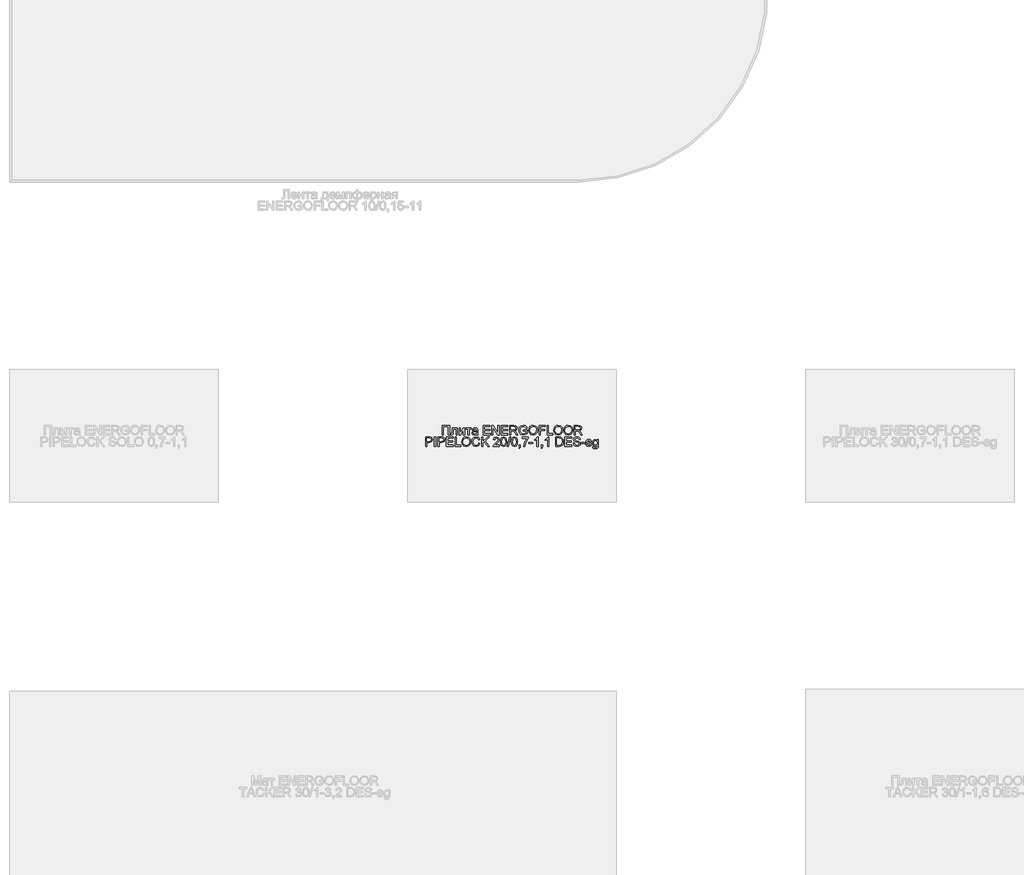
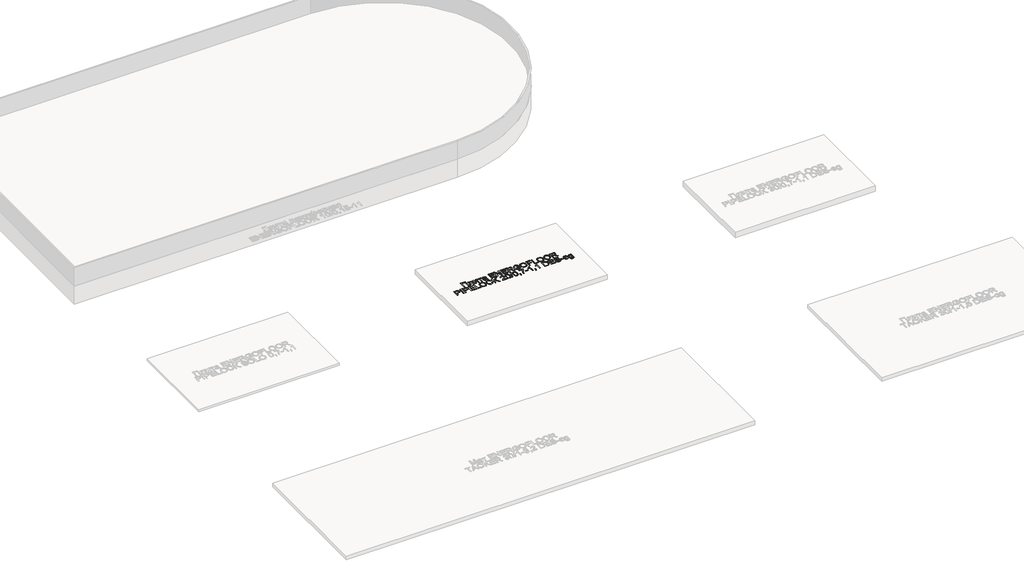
# One storey, part 5 of 7: 1 proxy.
"""IFC4 building model written with IfcOpenShell, lengths in millimetres."""

from ifc_helpers import new_model, si_unit, origin, origin_with_axes, place, context, project, spatial, polyline, outline, extrude, element, save

model = new_model("IFC4")

# Units and contexts
model_context = context("Model", 3, world=origin())
ifc_project = project(units=[si_unit("LENGTHUNIT", "METRE", prefix="MILLI")], contexts=[model_context])

# Site, building, storey
site = spatial("IfcSite", under=ifc_project)
building = spatial("IfcBuilding", under=site)
storey = spatial("IfcBuildingStorey", under=building, Name="Уровень 1", Elevation=0.0)

# Proxy
placement = place(None, origin())
element("IfcBuildingElementProxy", 1, Name="Текст модели ROLS ISOMARKET", ObjectType="Текст модели ROLS ISOMARKET", at=placement, inside=storey, context=model_context, shape_type="SweptSolid", body=[
    extrude(outline(polyline([(-14833.1193871, 11506.776011), (-14794.6578487, 11506.776011), (-14794.6578487, 11457.5452418), (-14800.8116948, 11457.5452418), (-14800.8116948, 11500.6221648), (-14826.965541, 11500.6221648), (-14826.965541, 11457.5452418), (-14833.1193871, 11457.5452418), (-14833.1193871, 11506.776011)])), origin_with_axes(), (0.0, 0.0, 1.0), 2.0),
    extrude(outline(polyline([(-14781.5809256, 11493.6990879), (-14753.8886179, 11493.6990879), (-14753.8886179, 11457.5812994), (-14760.0424641, 11457.5812994), (-14760.0424641, 11487.5452418), (-14775.4270794, 11487.5452418), (-14775.4270794, 11470.2976456), (-14775.8417429, 11462.3409148), (-14778.1193871, 11458.9815398), (-14783.5040025, 11457.5452418), (-14788.5040025, 11457.8577418), (-14788.5040025, 11463.6990879), (-14785.7515987, 11463.6990879), (-14782.9691468, 11464.0776937), (-14781.8573679, 11465.2796168), (-14781.5809256, 11470.6462033), (-14781.5809256, 11493.6990879)])), origin_with_axes(), (0.0, 0.0, 1.0), 2.0),
    extrude(outline(polyline([(-14744.6578487, 11493.6990879), (-14738.5040025, 11493.6990879), (-14738.5040025, 11466.1269725), (-14723.3838102, 11493.6990879), (-14715.4270794, 11493.6990879), (-14715.4270794, 11457.5452418), (-14721.5809256, 11457.5452418), (-14721.5809256, 11484.9490879), (-14736.6049641, 11457.5452418), (-14744.6578487, 11457.5452418), (-14744.6578487, 11493.6990879)])), origin_with_axes(), (0.0, 0.0, 1.0), 2.0),
    extrude(outline(polyline([(-14709.2732333, 11493.6990879), (-14680.0424641, 11493.6990879), (-14680.0424641, 11487.5452418), (-14691.5809256, 11487.5452418), (-14691.5809256, 11457.5452418), (-14697.7347718, 11457.5452418), (-14697.7347718, 11487.5452418), (-14709.2732333, 11487.5452418), (-14709.2732333, 11493.6990879)])), origin_with_axes(), (0.0, 0.0, 1.0), 2.0),
    extrude(outline(polyline([(-14651.5809256, 11462.1606264), (-14657.5484737, 11457.9899533), (-14664.1410218, 11456.776011), (-14673.0773198, 11459.6966841), (-14676.1963102, 11467.1606264), (-14675.0184256, 11472.0284148), (-14671.9234737, 11475.5620687), (-14667.6145794, 11477.5812994), (-14662.2900602, 11478.5067802), (-14651.6169833, 11480.6221648), (-14653.2756371, 11486.5356264), (-14660.0785218, 11488.3144725), (-14666.3044833, 11487.1305783), (-14669.2732333, 11482.9298571), (-14675.4270794, 11483.6990879), (-14672.7648198, 11489.7087033), (-14667.4042429, 11493.2303379), (-14659.2852525, 11494.4683187), (-14651.8273198, 11493.3745687), (-14647.6145794, 11490.6281744), (-14645.7275602, 11486.4514918), (-14645.4270794, 11481.0668764), (-14645.4270794, 11473.4106264), (-14645.1145794, 11462.7195206), (-14643.8886179, 11457.5452418), (-14650.0424641, 11457.5452418), (-14651.5809256, 11462.1606264)]), holes=[polyline([(-14651.5809256, 11474.4683187), (-14661.5088102, 11472.5812994), (-14666.8032814, 11471.5837033), (-14669.2011179, 11469.9611071), (-14670.0424641, 11467.5933187), (-14668.2095314, 11464.2639918), (-14662.8309256, 11462.9298571), (-14656.6049641, 11464.4022129), (-14652.590541, 11467.9659148), (-14651.6169833, 11472.7255302), (-14651.5809256, 11474.4683187)])]), origin_with_axes(), (0.0, 0.0, 1.0), 2.0),
    extrude(outline(polyline([(-14616.965541, 11457.5452418), (-14616.965541, 11506.776011), (-14581.5809256, 11506.776011), (-14581.5809256, 11500.6221648), (-14610.8116948, 11500.6221648), (-14610.8116948, 11486.0067802), (-14583.1193871, 11486.0067802), (-14583.1193871, 11479.8529341), (-14610.8116948, 11479.8529341), (-14610.8116948, 11463.6990879), (-14580.8116948, 11463.6990879), (-14580.8116948, 11457.5452418), (-14616.965541, 11457.5452418)])), origin_with_axes(), (0.0, 0.0, 1.0), 2.0),
    extrude(outline(polyline([(-14571.5809256, 11457.5452418), (-14571.5809256, 11506.776011), (-14564.9943871, 11506.776011), (-14539.2732333, 11467.7736071), (-14539.2732333, 11506.776011), (-14533.1193871, 11506.776011), (-14533.1193871, 11457.5452418), (-14539.7059256, 11457.5452418), (-14565.4270794, 11496.5596648), (-14565.4270794, 11457.5452418), (-14571.5809256, 11457.5452418)])), origin_with_axes(), (0.0, 0.0, 1.0), 2.0),
    extrude(outline(polyline([(-14522.3501564, 11457.5452418), (-14522.3501564, 11506.776011), (-14486.965541, 11506.776011), (-14486.965541, 11500.6221648), (-14516.1963102, 11500.6221648), (-14516.1963102, 11486.0067802), (-14488.5040025, 11486.0067802), (-14488.5040025, 11479.8529341), (-14516.1963102, 11479.8529341), (-14516.1963102, 11463.6990879), (-14486.1963102, 11463.6990879), (-14486.1963102, 11457.5452418), (-14522.3501564, 11457.5452418)])), origin_with_axes(), (0.0, 0.0, 1.0), 2.0),
    extrude(outline(polyline([(-14476.965541, 11457.5452418), (-14476.965541, 11506.776011), (-14455.7515987, 11506.776011), (-14445.9018391, 11505.447886), (-14440.5172237, 11500.7483668), (-14438.5040025, 11493.3024533), (-14441.8393391, 11484.432261), (-14452.1458294, 11479.8529341), (-14448.6482333, 11477.2207225), (-14443.6602525, 11470.8865879), (-14435.4511179, 11457.5452418), (-14442.6025602, 11457.5452418), (-14449.0088102, 11467.7495687), (-14453.6362141, 11474.5043764), (-14456.887416, 11477.6954821), (-14459.8140987, 11478.8673571), (-14463.3838102, 11479.0837033), (-14470.8116948, 11479.0837033), (-14470.8116948, 11457.5452418), (-14476.965541, 11457.5452418)]), holes=[polyline([(-14470.8116948, 11485.2375494), (-14457.0376564, 11485.2375494), (-14450.012416, 11486.1089437), (-14446.0220314, 11488.8974052), (-14444.6578487, 11493.0740879), (-14447.2600121, 11498.494761), (-14455.4871756, 11500.6221648), (-14470.8116948, 11500.6221648), (-14470.8116948, 11485.2375494)])]), origin_with_axes(), (0.0, 0.0, 1.0), 2.0),
    extrude(outline(polyline([(-14404.6578487, 11476.776011), (-14404.6578487, 11482.9298571), (-14384.6578487, 11482.9298571), (-14384.6578487, 11464.5284148), (-14394.5316468, 11458.7231264), (-14404.9703487, 11456.776011), (-14418.1133775, 11459.8709629), (-14427.0316468, 11468.8312994), (-14430.0424641, 11481.9202418), (-14427.043666, 11495.3036552), (-14418.4198679, 11504.5284148), (-14405.4631371, 11507.5452418), (-14395.8357333, 11505.7964437), (-14389.0869352, 11500.9286552), (-14385.3669833, 11492.7856264), (-14391.0400602, 11491.1870687), (-14393.8465506, 11496.8781744), (-14398.6422237, 11500.1594244), (-14405.559291, 11501.3913956), (-14413.4378968, 11500.0632706), (-14418.7984737, 11496.5776937), (-14421.965541, 11491.8361071), (-14423.8886179, 11482.1726456), (-14421.574916, 11471.4454821), (-14414.8441468, 11465.0272129), (-14405.4631371, 11462.9298571), (-14397.043666, 11464.510386), (-14390.8116948, 11467.8817802), (-14390.8116948, 11476.776011), (-14404.6578487, 11476.776011)])), origin_with_axes(), (0.0, 0.0, 1.0), 2.0),
    extrude(outline(polyline([(-14376.965541, 11481.5115879), (-14375.324916, 11492.3980062), (-14370.403041, 11500.6341841), (-14362.8880169, 11505.8174773), (-14353.4679448, 11507.5452418), (-14341.2203487, 11504.3000494), (-14332.903041, 11495.2495687), (-14330.0424641, 11482.0764918), (-14333.0532814, 11468.7231264), (-14341.5869352, 11459.8048571), (-14353.5040025, 11456.776011), (-14365.8838102, 11460.1233668), (-14374.153041, 11469.2579821), (-14376.965541, 11481.5115879)]), holes=[polyline([(-14370.8116948, 11481.4514918), (-14365.8898198, 11467.8817802), (-14353.5400602, 11462.9298571), (-14341.0821275, 11467.9298571), (-14336.1963102, 11482.1245687), (-14338.2876564, 11492.2808187), (-14344.3994352, 11499.0055783), (-14353.4318871, 11501.3913956), (-14365.6794833, 11496.7940398), (-14369.5286419, 11490.6597249), (-14370.8116948, 11481.4514918)])]), origin_with_axes(), (0.0, 0.0, 1.0), 2.0),
    extrude(outline(polyline([(-14321.5809256, 11457.5452418), (-14321.5809256, 11506.776011), (-14288.5040025, 11506.776011), (-14288.5040025, 11500.6221648), (-14315.4270794, 11500.6221648), (-14315.4270794, 11486.0067802), (-14292.3501564, 11486.0067802), (-14292.3501564, 11479.8529341), (-14315.4270794, 11479.8529341), (-14315.4270794, 11457.5452418), (-14321.5809256, 11457.5452418)])), origin_with_axes(), (0.0, 0.0, 1.0), 2.0),
    extrude(outline(polyline([(-14280.0424641, 11457.5452418), (-14280.0424641, 11506.776011), (-14273.8886179, 11506.776011), (-14273.8886179, 11463.6990879), (-14249.2732333, 11463.6990879), (-14249.2732333, 11457.5452418), (-14280.0424641, 11457.5452418)])), origin_with_axes(), (0.0, 0.0, 1.0), 2.0),
    extrude(outline(polyline([(-14244.6578487, 11481.5115879), (-14243.0172237, 11492.3980062), (-14238.0953487, 11500.6341841), (-14230.5803246, 11505.8174773), (-14221.1602525, 11507.5452418), (-14208.9126564, 11504.3000494), (-14200.5953487, 11495.2495687), (-14197.7347718, 11482.0764918), (-14200.7455891, 11468.7231264), (-14209.2792429, 11459.8048571), (-14221.1963102, 11456.776011), (-14233.5761179, 11460.1233668), (-14241.8453487, 11469.2579821), (-14244.6578487, 11481.5115879)]), holes=[polyline([(-14238.5040025, 11481.4514918), (-14233.5821275, 11467.8817802), (-14221.2323679, 11462.9298571), (-14208.7744352, 11467.9298571), (-14203.8886179, 11482.1245687), (-14205.9799641, 11492.2808187), (-14212.0917429, 11499.0055783), (-14221.1241948, 11501.3913956), (-14233.371791, 11496.7940398), (-14237.2209496, 11490.6597249), (-14238.5040025, 11481.4514918)])]), origin_with_axes(), (0.0, 0.0, 1.0), 2.0),
    extrude(outline(polyline([(-14191.5809256, 11481.5115879), (-14189.9403006, 11492.3980062), (-14185.0184256, 11500.6341841), (-14177.5034016, 11505.8174773), (-14168.0833294, 11507.5452418), (-14155.8357333, 11504.3000494), (-14147.5184256, 11495.2495687), (-14144.6578487, 11482.0764918), (-14147.668666, 11468.7231264), (-14156.2023198, 11459.8048571), (-14168.1193871, 11456.776011), (-14180.4991948, 11460.1233668), (-14188.7684256, 11469.2579821), (-14191.5809256, 11481.5115879)]), holes=[polyline([(-14185.4270794, 11481.4514918), (-14180.5052044, 11467.8817802), (-14168.1554448, 11462.9298571), (-14155.6975121, 11467.9298571), (-14150.8116948, 11482.1245687), (-14152.903041, 11492.2808187), (-14159.0148198, 11499.0055783), (-14168.0472718, 11501.3913956), (-14180.2948679, 11496.7940398), (-14184.1440266, 11490.6597249), (-14185.4270794, 11481.4514918)])]), origin_with_axes(), (0.0, 0.0, 1.0), 2.0),
    extrude(outline(polyline([(-14136.1963102, 11457.5452418), (-14136.1963102, 11506.776011), (-14114.9823679, 11506.776011), (-14105.1326083, 11505.447886), (-14099.7479929, 11500.7483668), (-14097.7347718, 11493.3024533), (-14101.0701083, 11484.432261), (-14111.3765987, 11479.8529341), (-14107.8790025, 11477.2207225), (-14102.8910218, 11470.8865879), (-14094.6818871, 11457.5452418), (-14101.8333294, 11457.5452418), (-14108.2395794, 11467.7495687), (-14112.8669833, 11474.5043764), (-14116.1181852, 11477.6954821), (-14119.0448679, 11478.8673571), (-14122.6145794, 11479.0837033), (-14130.0424641, 11479.0837033), (-14130.0424641, 11457.5452418), (-14136.1963102, 11457.5452418)]), holes=[polyline([(-14130.0424641, 11485.2375494), (-14116.2684256, 11485.2375494), (-14109.2431852, 11486.1089437), (-14105.2528006, 11488.8974052), (-14103.8886179, 11493.0740879), (-14106.4907814, 11498.494761), (-14114.7179448, 11500.6221648), (-14130.0424641, 11500.6221648), (-14130.0424641, 11485.2375494)])]), origin_with_axes(), (0.0, 0.0, 1.0), 2.0),
    extrude(outline(polyline([(-14920.8116948, 11396.776011), (-14920.8116948, 11446.0067802), (-14902.5665025, 11446.0067802), (-14895.2107333, 11445.5380302), (-14889.231166, 11443.2363475), (-14885.3549641, 11438.4767321), (-14883.8886179, 11431.7639918), (-14887.8489544, 11421.1269725), (-14902.1458294, 11416.776011), (-14914.6578487, 11416.776011), (-14914.6578487, 11396.776011), (-14920.8116948, 11396.776011)]), holes=[polyline([(-14914.6578487, 11422.9298571), (-14901.7852525, 11422.9298571), (-14892.7227525, 11425.1894725), (-14890.0424641, 11431.5476456), (-14891.6229929, 11436.6437994), (-14895.7756371, 11439.432261), (-14901.9294833, 11439.8529341), (-14914.6578487, 11439.8529341), (-14914.6578487, 11422.9298571)])]), origin_with_axes(), (0.0, 0.0, 1.0), 2.0),
    extrude(outline(polyline([(-14874.6578487, 11396.776011), (-14874.6578487, 11446.0067802), (-14868.5040025, 11446.0067802), (-14868.5040025, 11396.776011), (-14874.6578487, 11396.776011)])), origin_with_axes(), (0.0, 0.0, 1.0), 2.0),
    extrude(outline(polyline([(-14856.1963102, 11396.776011), (-14856.1963102, 11446.0067802), (-14837.9511179, 11446.0067802), (-14830.5953487, 11445.5380302), (-14824.6157814, 11443.2363475), (-14820.7395794, 11438.4767321), (-14819.2732333, 11431.7639918), (-14823.2335698, 11421.1269725), (-14837.5304448, 11416.776011), (-14850.0424641, 11416.776011), (-14850.0424641, 11396.776011), (-14856.1963102, 11396.776011)]), holes=[polyline([(-14850.0424641, 11422.9298571), (-14837.1698679, 11422.9298571), (-14828.1073679, 11425.1894725), (-14825.4270794, 11431.5476456), (-14827.0076083, 11436.6437994), (-14831.1602525, 11439.432261), (-14837.3140987, 11439.8529341), (-14850.0424641, 11439.8529341), (-14850.0424641, 11422.9298571)])]), origin_with_axes(), (0.0, 0.0, 1.0), 2.0),
    extrude(outline(polyline([(-14810.8116948, 11396.776011), (-14810.8116948, 11446.0067802), (-14775.4270794, 11446.0067802), (-14775.4270794, 11439.8529341), (-14804.6578487, 11439.8529341), (-14804.6578487, 11425.2375494), (-14776.965541, 11425.2375494), (-14776.965541, 11419.0837033), (-14804.6578487, 11419.0837033), (-14804.6578487, 11402.9298571), (-14774.6578487, 11402.9298571), (-14774.6578487, 11396.776011), (-14810.8116948, 11396.776011)])), origin_with_axes(), (0.0, 0.0, 1.0), 2.0),
    extrude(outline(polyline([(-14765.4270794, 11396.776011), (-14765.4270794, 11446.0067802), (-14759.2732333, 11446.0067802), (-14759.2732333, 11402.9298571), (-14734.6578487, 11402.9298571), (-14734.6578487, 11396.776011), (-14765.4270794, 11396.776011)])), origin_with_axes(), (0.0, 0.0, 1.0), 2.0),
    extrude(outline(polyline([(-14730.0424641, 11420.7423571), (-14728.4018391, 11431.6287754), (-14723.4799641, 11439.8649533), (-14715.96494, 11445.0482466), (-14706.5448679, 11446.776011), (-14694.2972718, 11443.5308187), (-14685.9799641, 11434.4803379), (-14683.1193871, 11421.307261), (-14686.1302044, 11407.9538956), (-14694.6638583, 11399.0356264), (-14706.5809256, 11396.0067802), (-14718.9607333, 11399.354136), (-14727.2299641, 11408.4887514), (-14730.0424641, 11420.7423571)]), holes=[polyline([(-14723.8886179, 11420.682261), (-14718.9667429, 11407.1125494), (-14706.6169833, 11402.1606264), (-14694.1590506, 11407.1606264), (-14689.2732333, 11421.3553379), (-14691.3645794, 11431.5115879), (-14697.4763583, 11438.2363475), (-14706.5088102, 11440.6221648), (-14718.7564064, 11436.0248091), (-14722.605565, 11429.8904942), (-14723.8886179, 11420.682261)])]), origin_with_axes(), (0.0, 0.0, 1.0), 2.0),
    extrude(outline(polyline([(-14640.0424641, 11414.276011), (-14633.8886179, 11412.6894725), (-14641.184291, 11400.2796168), (-14654.0689064, 11396.0067802), (-14666.8753968, 11399.2399533), (-14674.387416, 11408.6029341), (-14676.965541, 11421.7639918), (-14674.0508775, 11435.1413956), (-14665.7636179, 11443.8132706), (-14653.9366948, 11446.776011), (-14641.6109737, 11442.9418764), (-14634.6578487, 11432.1486071), (-14640.8116948, 11430.682261), (-14645.8597718, 11438.2483668), (-14654.1770794, 11440.6221648), (-14663.8044833, 11437.9899533), (-14669.2431852, 11430.9226456), (-14670.8116948, 11421.776011), (-14668.9547237, 11411.1750494), (-14663.1734737, 11404.4022129), (-14654.6818871, 11402.1606264), (-14645.2648198, 11405.213511), (-14640.0424641, 11414.276011)])), origin_with_axes(), (0.0, 0.0, 1.0), 2.0),
    extrude(outline(polyline([(-14625.4270794, 11396.776011), (-14625.4270794, 11446.0067802), (-14619.2732333, 11446.0067802), (-14619.2732333, 11421.9082225), (-14594.0328487, 11446.0067802), (-14585.4270794, 11446.0067802), (-14606.6169833, 11425.7663956), (-14584.6578487, 11396.776011), (-14592.1818871, 11396.776011), (-14610.9799641, 11421.6077418), (-14619.2732333, 11413.6990879), (-14619.2732333, 11396.776011), (-14625.4270794, 11396.776011)])), origin_with_axes(), (0.0, 0.0, 1.0), 2.0),
    extrude(outline(polyline([(-14531.5809256, 11402.9298571), (-14531.5809256, 11396.776011), (-14563.8886179, 11396.776011), (-14563.2275602, 11401.0187994), (-14559.4895794, 11407.5512514), (-14551.7852525, 11414.6846648), (-14541.1602525, 11424.9370687), (-14538.5040025, 11431.9082225), (-14541.0100121, 11437.5512514), (-14547.5544833, 11439.8529341), (-14554.3753968, 11437.6053379), (-14556.965541, 11431.3913956), (-14563.1193871, 11432.1606264), (-14558.4018391, 11442.4611071), (-14547.4222718, 11446.0067802), (-14536.4066468, 11442.0644725), (-14532.3501564, 11432.2808187), (-14533.4439064, 11426.4454821), (-14537.0797237, 11420.4118283), (-14545.8958294, 11411.9803379), (-14552.9751564, 11406.0608668), (-14555.7515987, 11402.9298571), (-14531.5809256, 11402.9298571)])), origin_with_axes(), (0.0, 0.0, 1.0), 2.0),
    extrude(outline(polyline([(-14525.4270794, 11420.994761), (-14523.6181852, 11435.1594244), (-14518.2455891, 11443.3264918), (-14509.2732333, 11446.0067802), (-14502.0857333, 11444.4202418), (-14497.121791, 11439.8469244), (-14494.2371756, 11432.5632706), (-14493.1193871, 11420.994761), (-14494.9102525, 11406.8901937), (-14500.2648198, 11398.7050975), (-14509.2732333, 11396.0067802), (-14520.5232333, 11400.6942802), (-14524.2011179, 11409.0206023), (-14525.4270794, 11420.994761)]), holes=[polyline([(-14519.2732333, 11421.0067802), (-14516.3886179, 11405.7243283), (-14509.2732333, 11402.1606264), (-14502.1578487, 11405.7363475), (-14499.2732333, 11421.0067802), (-14502.0616948, 11436.1149533), (-14509.3453487, 11439.8529341), (-14516.2924641, 11436.5596648), (-14519.2732333, 11421.0067802)])]), origin_with_axes(), (0.0, 0.0, 1.0), 2.0),
    extrude(outline(polyline([(-14490.8116948, 11396.776011), (-14476.965541, 11446.0067802), (-14471.4126564, 11446.0067802), (-14485.2588102, 11396.776011), (-14490.8116948, 11396.776011)])), origin_with_axes(), (0.0, 0.0, 1.0), 2.0),
    extrude(outline(polyline([(-14468.5040025, 11420.994761), (-14466.6951083, 11435.1594244), (-14461.3225121, 11443.3264918), (-14452.3501564, 11446.0067802), (-14445.1626564, 11444.4202418), (-14440.1987141, 11439.8469244), (-14437.3140987, 11432.5632706), (-14436.1963102, 11420.994761), (-14437.9871756, 11406.8901937), (-14443.3417429, 11398.7050975), (-14452.3501564, 11396.0067802), (-14463.6001564, 11400.6942802), (-14467.278041, 11409.0206023), (-14468.5040025, 11420.994761)]), holes=[polyline([(-14462.3501564, 11421.0067802), (-14459.465541, 11405.7243283), (-14452.3501564, 11402.1606264), (-14445.2347718, 11405.7363475), (-14442.3501564, 11421.0067802), (-14445.1386179, 11436.1149533), (-14452.4222718, 11439.8529341), (-14459.3693871, 11436.5596648), (-14462.3501564, 11421.0067802)])]), origin_with_axes(), (0.0, 0.0, 1.0), 2.0),
    extrude(outline(polyline([(-14427.7347718, 11396.776011), (-14427.7347718, 11402.9298571), (-14421.5809256, 11402.9298571), (-14421.5809256, 11396.776011), (-14422.6866948, 11390.4839437), (-14426.1963102, 11386.776011), (-14427.7347718, 11389.0837033), (-14425.4751564, 11391.7399533), (-14424.6698679, 11396.776011), (-14427.7347718, 11396.776011)])), origin_with_axes(), (0.0, 0.0, 1.0), 2.0),
    extrude(outline(polyline([(-14411.5809256, 11439.0837033), (-14411.5809256, 11445.2375494), (-14379.2732333, 11445.2375494), (-14379.2732333, 11440.2615879), (-14388.4378968, 11427.0224052), (-14395.4511179, 11410.1534148), (-14397.7347718, 11396.776011), (-14403.8886179, 11396.776011), (-14401.4427044, 11410.6582225), (-14394.7299641, 11426.3493283), (-14385.4270794, 11439.0837033), (-14411.5809256, 11439.0837033)])), origin_with_axes(), (0.0, 0.0, 1.0), 2.0),
    extrude(outline(polyline([(-14375.4270794, 11411.3913956), (-14375.4270794, 11417.5452418), (-14356.1963102, 11417.5452418), (-14356.1963102, 11411.3913956), (-14375.4270794, 11411.3913956)])), origin_with_axes(), (0.0, 0.0, 1.0), 2.0),
    extrude(outline(polyline([(-14327.7347718, 11396.776011), (-14333.8886179, 11396.776011), (-14333.8886179, 11435.1413956), (-14339.7179448, 11430.9887514), (-14346.1963102, 11427.8817802), (-14346.1963102, 11433.6990879), (-14337.1758775, 11439.4562994), (-14331.7011179, 11446.0067802), (-14327.7347718, 11446.0067802), (-14327.7347718, 11396.776011)])), origin_with_axes(), (0.0, 0.0, 1.0), 2.0),
    extrude(outline(polyline([(-14310.0424641, 11396.776011), (-14310.0424641, 11402.9298571), (-14303.8886179, 11402.9298571), (-14303.8886179, 11396.776011), (-14304.9943871, 11390.4839437), (-14308.5040025, 11386.776011), (-14310.0424641, 11389.0837033), (-14307.7828487, 11391.7399533), (-14306.9775602, 11396.776011), (-14310.0424641, 11396.776011)])), origin_with_axes(), (0.0, 0.0, 1.0), 2.0),
    extrude(outline(polyline([(-14270.8116948, 11396.776011), (-14276.965541, 11396.776011), (-14276.965541, 11435.1413956), (-14282.7948679, 11430.9887514), (-14289.2732333, 11427.8817802), (-14289.2732333, 11433.6990879), (-14280.2528006, 11439.4562994), (-14274.778041, 11446.0067802), (-14270.8116948, 11446.0067802), (-14270.8116948, 11396.776011)])), origin_with_axes(), (0.0, 0.0, 1.0), 2.0),
    extrude(outline(polyline([(-14234.6578487, 11396.776011), (-14234.6578487, 11446.0067802), (-14217.6746756, 11446.0067802), (-14208.8886179, 11445.2976456), (-14201.653041, 11441.776011), (-14195.8237141, 11433.3625494), (-14193.8886179, 11421.6558187), (-14195.1987141, 11411.7219244), (-14198.5640987, 11404.5524533), (-14203.059291, 11400.0873091), (-14208.9427044, 11397.6173571), (-14216.8573679, 11396.776011), (-14234.6578487, 11396.776011)]), holes=[polyline([(-14228.5040025, 11402.9298571), (-14217.6145794, 11402.9298571), (-14209.6939064, 11403.8192802), (-14205.1265987, 11406.3312994), (-14201.3826083, 11412.4430783), (-14200.0424641, 11421.7519725), (-14202.668666, 11433.4106264), (-14209.0568871, 11438.8673571), (-14217.7828487, 11439.8529341), (-14228.5040025, 11439.8529341), (-14228.5040025, 11402.9298571)])]), origin_with_axes(), (0.0, 0.0, 1.0), 2.0),
    extrude(outline(polyline([(-14185.4270794, 11396.776011), (-14185.4270794, 11446.0067802), (-14150.0424641, 11446.0067802), (-14150.0424641, 11439.8529341), (-14179.2732333, 11439.8529341), (-14179.2732333, 11425.2375494), (-14151.5809256, 11425.2375494), (-14151.5809256, 11419.0837033), (-14179.2732333, 11419.0837033), (-14179.2732333, 11402.9298571), (-14149.2732333, 11402.9298571), (-14149.2732333, 11396.776011), (-14185.4270794, 11396.776011)])), origin_with_axes(), (0.0, 0.0, 1.0), 2.0),
    extrude(outline(polyline([(-14142.3501564, 11413.6990879), (-14136.1963102, 11413.6990879), (-14134.2131371, 11407.5392321), (-14129.3693871, 11403.6450014), (-14121.9895794, 11402.1606264), (-14115.559291, 11403.2844244), (-14111.4066468, 11406.3733668), (-14110.0424641, 11410.5019725), (-14111.0640987, 11414.3421168), (-14115.246791, 11417.1365879), (-14124.2071275, 11419.4863475), (-14133.8525602, 11422.5212033), (-14139.0869352, 11427.1005302), (-14140.8116948, 11433.2183187), (-14138.6782814, 11440.1834629), (-14132.4463102, 11445.0993283), (-14123.3237141, 11446.776011), (-14113.5881371, 11445.0212033), (-14107.0977525, 11439.8649533), (-14104.6578487, 11432.1606264), (-14110.8116948, 11432.1606264), (-14114.2972718, 11438.4827418), (-14123.0833294, 11440.6221648), (-14131.8934256, 11438.5067802), (-14134.6578487, 11433.3986071), (-14132.6987141, 11429.1317802), (-14122.6506371, 11425.6942802), (-14111.7612141, 11422.6053379), (-14105.8056852, 11417.6173571), (-14103.8886179, 11410.6582225), (-14106.0941468, 11403.2964437), (-14112.4403006, 11397.9238475), (-14121.7491948, 11396.0067802), (-14132.7407814, 11398.0740879), (-14139.6939064, 11404.3000494), (-14142.3501564, 11413.6990879)])), origin_with_axes(), (0.0, 0.0, 1.0), 2.0),
    extrude(outline(polyline([(-14098.5040025, 11411.3913956), (-14098.5040025, 11417.5452418), (-14079.2732333, 11417.5452418), (-14079.2732333, 11411.3913956), (-14098.5040025, 11411.3913956)])), origin_with_axes(), (0.0, 0.0, 1.0), 2.0),
    extrude(outline(polyline([(-14074.6578487, 11407.5452418), (-14068.5040025, 11408.3144725), (-14065.6554448, 11403.7471648), (-14059.1290025, 11402.1606264), (-14052.8549641, 11403.6149533), (-14050.8116948, 11407.0284148), (-14052.8669833, 11409.7928379), (-14059.2011179, 11411.5476456), (-14068.4679448, 11414.5584629), (-14072.512416, 11418.0740879), (-14073.8886179, 11423.0380302), (-14072.7828487, 11427.6233668), (-14069.7660218, 11431.1269725), (-14065.8537621, 11432.947886), (-14060.559291, 11433.6990879), (-14053.0713102, 11432.4911552), (-14048.3116948, 11429.2219244), (-14046.1963102, 11423.6990879), (-14052.3501564, 11422.9298571), (-14054.6638583, 11426.3252898), (-14060.0785218, 11427.5452418), (-14065.9679448, 11426.3793764), (-14067.7347718, 11423.6630302), (-14067.0015987, 11421.8721648), (-14064.7059256, 11420.5139918), (-14059.4054448, 11419.2038956), (-14050.3729929, 11416.307261), (-14046.1782814, 11413.026011), (-14044.6578487, 11407.6774533), (-14046.4427044, 11401.7880302), (-14051.5929448, 11397.5151937), (-14059.2131371, 11396.0067802), (-14069.9463102, 11398.9154341), (-14074.6578487, 11407.5452418)])), origin_with_axes(), (0.0, 0.0, 1.0), 2.0),
    extrude(outline(polyline([(-14039.2732333, 11393.6990879), (-14033.1193871, 11392.9298571), (-14031.1241948, 11389.6846648), (-14025.1506371, 11388.3144725), (-14018.8525602, 11389.8649533), (-14015.8477525, 11394.2159148), (-14015.4270794, 11401.3913956), (-14025.0424641, 11396.776011), (-14036.1181852, 11402.1486071), (-14040.0424641, 11415.0332225), (-14038.2816468, 11424.5704821), (-14033.1854929, 11431.3192802), (-14025.3429448, 11433.6990879), (-14015.4270794, 11428.3144725), (-14015.4270794, 11432.9298571), (-14009.2732333, 11432.9298571), (-14009.2732333, 11401.7159148), (-14010.9559256, 11389.7627898), (-14016.2864544, 11384.2038956), (-14025.2708294, 11382.1606264), (-14035.5052044, 11385.0392321), (-14039.2732333, 11393.6990879)]), holes=[polyline([(-14033.8886179, 11415.4538956), (-14031.262416, 11405.9286552), (-14024.6698679, 11402.9298571), (-14018.0893391, 11405.9106264), (-14015.4270794, 11415.2736071), (-14018.1674641, 11424.4502898), (-14024.7660218, 11427.5452418), (-14031.2263583, 11424.4983668), (-14033.8886179, 11415.4538956)])]), origin_with_axes(), (0.0, 0.0, 1.0), 2.0),
])

save(model, "model.ifc")
